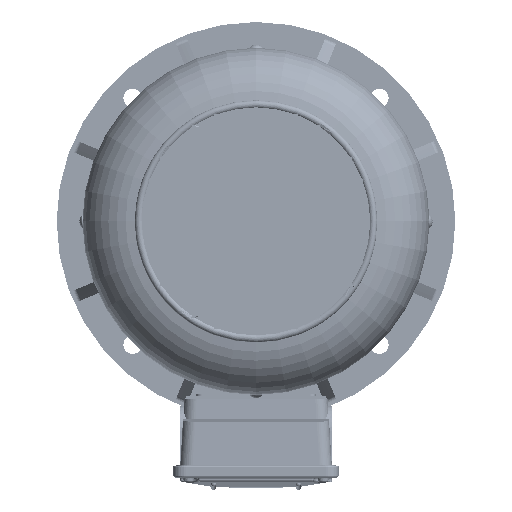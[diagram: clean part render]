
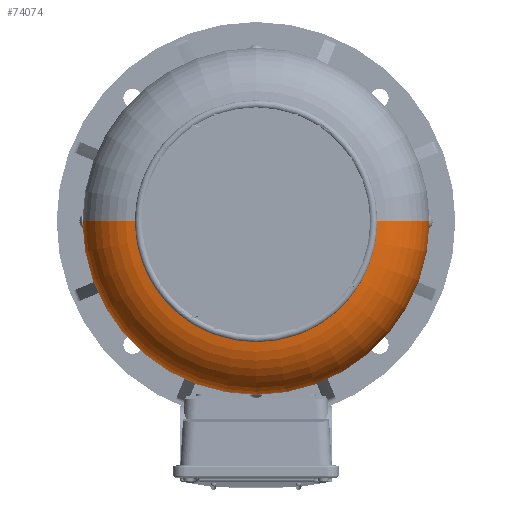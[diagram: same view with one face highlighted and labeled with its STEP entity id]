
A CAD part, left-side view. The second image highlights one B-rep face of the part: STEP entity #74074.
In plain terms, the highlighted toroidal (fillet/blend) face has major radius 116.5 mm and minor radius 57.5 mm.
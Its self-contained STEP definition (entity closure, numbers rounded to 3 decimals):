
#8784 = DIRECTION ( 'NONE',  ( 0., -1., 0. ) ) ;
#9789 = ORIENTED_EDGE ( 'NONE', *, *, #31845, .F. ) ;
#20137 = CARTESIAN_POINT ( 'NONE',  ( 304.941, 0., 0. ) ) ;
#22701 = DIRECTION ( 'NONE',  ( 0., 1., 0. ) ) ;
#22713 = ORIENTED_EDGE ( 'NONE', *, *, #137530, .T. ) ;
#30109 = AXIS2_PLACEMENT_3D ( 'NONE', #82152, #8784, #94430 ) ;
#31845 = EDGE_CURVE ( 'NONE', #125802, #32500, #94389, .T. ) ;
#32498 = DIRECTION ( 'NONE',  ( 0., 0., 1. ) ) ;
#32500 = VERTEX_POINT ( 'NONE', #36426 ) ;
#34084 = CARTESIAN_POINT ( 'NONE',  ( 304.941, 0., 121.5 ) ) ;
#36426 = CARTESIAN_POINT ( 'NONE',  ( 247.658, 0., 174. ) ) ;
#40284 = FACE_OUTER_BOUND ( 'NONE', #145124, .T. ) ;
#45119 = CARTESIAN_POINT ( 'NONE',  ( 247.658, 0., 0. ) ) ;
#48257 = DIRECTION ( 'NONE',  ( -1., 0., 0. ) ) ;
#53642 = AXIS2_PLACEMENT_3D ( 'NONE', #20137, #105790, #32498 ) ;
#56440 = ORIENTED_EDGE ( 'NONE', *, *, #139246, .F. ) ;
#57452 = DIRECTION ( 'NONE',  ( 0., 0., 1. ) ) ;
#60554 = DIRECTION ( 'NONE',  ( 0., 0., 1. ) ) ;
#63059 = CIRCLE ( 'NONE', #138509, 174. ) ;
#67399 = AXIS2_PLACEMENT_3D ( 'NONE', #121513, #48257, #60554 ) ;
#72925 = TOROIDAL_SURFACE ( 'NONE', #67399, 116.5, 57.5 ) ;
#74074 = ADVANCED_FACE ( 'NONE', ( #40284 ), #72925, .T. ) ;
#74863 = AXIS2_PLACEMENT_3D ( 'NONE', #96069, #22701, #108379 ) ;
#77240 = VERTEX_POINT ( 'NONE', #138794 ) ;
#78324 = EDGE_CURVE ( 'NONE', #125802, #90096, #113859, .T. ) ;
#82152 = CARTESIAN_POINT ( 'NONE',  ( 247.658, 0., 116.5 ) ) ;
#85170 = CARTESIAN_POINT ( 'NONE',  ( 304.941, 0., -121.5 ) ) ;
#86977 = ORIENTED_EDGE ( 'NONE', *, *, #78324, .T. ) ;
#90096 = VERTEX_POINT ( 'NONE', #85170 ) ;
#94389 = CIRCLE ( 'NONE', #30109, 57.5 ) ;
#94430 = DIRECTION ( 'NONE',  ( 0., 0., -1. ) ) ;
#96069 = CARTESIAN_POINT ( 'NONE',  ( 247.658, 0., -116.5 ) ) ;
#105790 = DIRECTION ( 'NONE',  ( -1., 0., 0. ) ) ;
#108379 = DIRECTION ( 'NONE',  ( 0., 0., 1. ) ) ;
#113859 = CIRCLE ( 'NONE', #53642, 121.5 ) ;
#115204 = CIRCLE ( 'NONE', #74863, 57.5 ) ;
#121513 = CARTESIAN_POINT ( 'NONE',  ( 247.658, 0., 0. ) ) ;
#125802 = VERTEX_POINT ( 'NONE', #34084 ) ;
#130630 = DIRECTION ( 'NONE',  ( -1., 0., 0. ) ) ;
#137530 = EDGE_CURVE ( 'NONE', #90096, #77240, #115204, .T. ) ;
#138509 = AXIS2_PLACEMENT_3D ( 'NONE', #45119, #130630, #57452 ) ;
#138794 = CARTESIAN_POINT ( 'NONE',  ( 247.658, 0., -174. ) ) ;
#139246 = EDGE_CURVE ( 'NONE', #32500, #77240, #63059, .T. ) ;
#145124 = EDGE_LOOP ( 'NONE', ( #86977, #22713, #56440, #9789 ) ) ;
